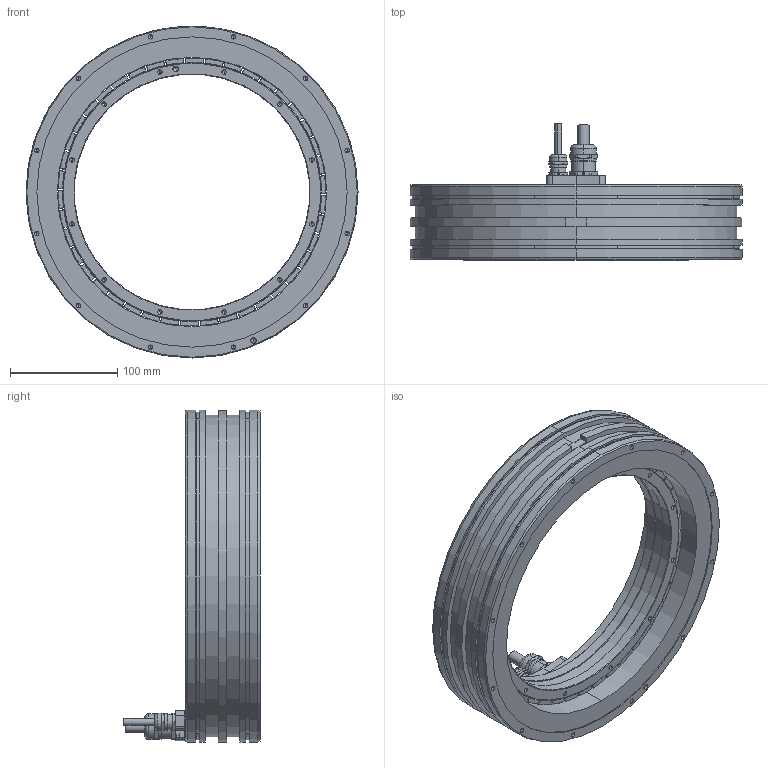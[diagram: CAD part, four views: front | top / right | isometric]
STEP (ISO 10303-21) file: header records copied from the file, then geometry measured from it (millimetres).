
FILE_DESCRIPTION (( 'STEP AP214' ), '1' );
FILE_NAME ('TORQUE KIT QMT LA 310-70-I-AX.STEP', '2025-09-10T09:42:59', ( '' ), ( '' ), 'SwSTEP 2.0', 'SolidWorks 2023', '' );
FILE_SCHEMA (( 'AUTOMOTIVE_DESIGN' ));
Length unit declared in the file: millimetre
Products named in the file (21): TORQUE KIT QMT LA 310-70-I-AX; Cable Connection ; Magnet; Stator; Screw; Cable; Housing-BO; Cable Gland; Cable Clamp; Rotor; Resin; Housing; Cooling Ring; Rotor Ring; Rotor Glued
Assembly tree (61 placements, depth 6):
  TORQUE KIT QMT LA 310-70-I-AX
    Stator
      Stator
        Housing
          Housing-BO
            Cooling Ring
        Resin
        Cable Connection 
          Cable Connection 
          Cable
          Cable
      Cable Clamp
        Cable Clamp
        Cable Gland
        Cable Gland
      Screw  x2
    Rotor
      Rotor Glued
        Rotor Ring
        Magnet  x21
        Magnet  x21
Bounding box: 310 x 127.1 x 310 mm (x, y, z)
Volume: 1989187.2 mm3; surface area: 471905.6 mm2
Topology: 53 solids, 53 shells, 2095 faces, 4835 edges, 2668 vertices
Faces by surface type: cylinder 911, sphere 420, plane 360, cone 212, torus 192
Entity records: 31562 total; most frequent: CARTESIAN_POINT 4574, DIRECTION 4527, ORIENTED_EDGE 3774, EDGE_CURVE 1887, AXIS2_PLACEMENT_3D 1868, VERTEX_POINT 1187, CIRCLE 968, EDGE_LOOP 964
